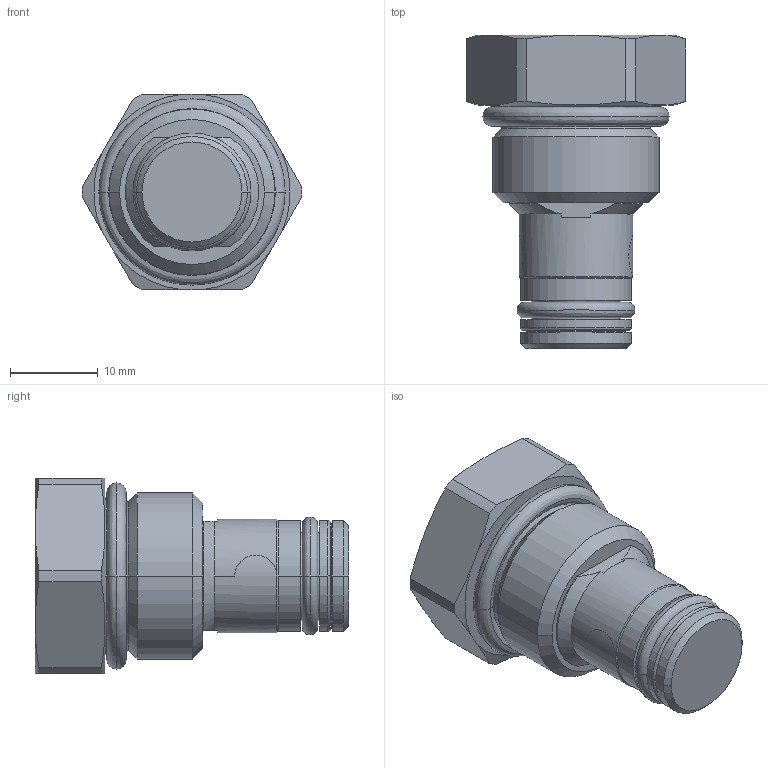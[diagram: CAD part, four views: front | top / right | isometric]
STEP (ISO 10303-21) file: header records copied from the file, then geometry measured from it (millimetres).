
FILE_DESCRIPTION((''),'2;1');
FILE_NAME('5200000_SW0001','2009-01-29T',('JCS'),(''),'PRO/ENGINEER BY PARAMETRIC TECHNOLOGY CORPORATION, 2008010','PRO/ENGINEER BY PARAMETRIC TECHNOLOGY CORPORATION, 2008010','');
FILE_SCHEMA(('CONFIG_CONTROL_DESIGN'));
Length unit declared in the file: inch
Products named in the file (1): 5200000_SW0001
Bounding box: 24.94 x 35.64 x 22.23 mm (x, y, z)
Volume: 8598.2 mm3; surface area: 3580.3 mm2
Topology: 4 solids, 4 shells, 95 faces, 224 edges, 134 vertices
Faces by surface type: cone 26, cylinder 24, revolution 16, plane 15, torus 14
Entity records: 3192 total; most frequent: CARTESIAN_POINT 975, DIRECTION 460, ORIENTED_EDGE 448, EDGE_CURVE 224, AXIS2_PLACEMENT_3D 189, VERTEX_POINT 134, CIRCLE 110, EDGE_LOOP 98
